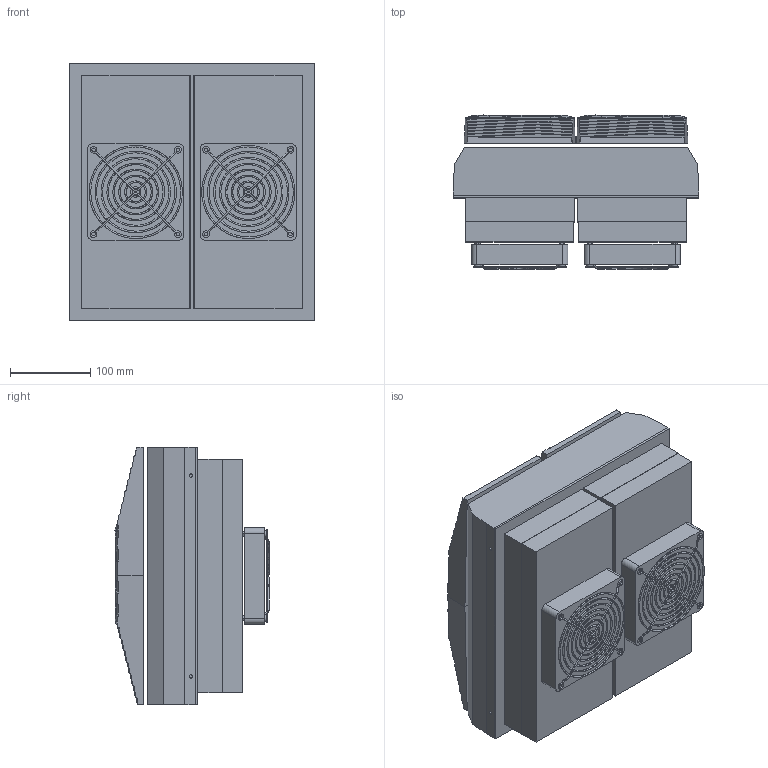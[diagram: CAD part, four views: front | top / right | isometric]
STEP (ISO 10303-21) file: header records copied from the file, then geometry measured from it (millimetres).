
FILE_DESCRIPTION(/* description */ (''),/* implementation_level */ '2;1');
FILE_NAME(/* name */ 'tcu',/* time_stamp */ '2023-11-13T12:30:36+01:00',/* author */ (''),/* organization */ (''),/* preprocessor_version */ 'ST-DEVELOPER v16.5',/* originating_system */ 'Rhino 7.34',/* authorisation */ '');
FILE_SCHEMA (('AUTOMOTIVE_DESIGN'));
Length unit declared in the file: millimetre
Products named in the file (1): Document
Bounding box: 306 x 191.61 x 320.47 mm (x, y, z)
Volume: 10867851.3 mm3; surface area: 1042566.6 mm2
Topology: 32 solids, 46 shells, 652 faces, 1716 edges, 1066 vertices
Faces by surface type: plane 442, cylinder 110, bspline 100
Entity records: 38764 total; most frequent: CARTESIAN_POINT 27369, ORIENTED_EDGE 3290, EDGE_CURVE 1716, B_SPLINE_CURVE_WITH_KNOTS 1454, VERTEX_POINT 1066, EDGE_LOOP 674, ADVANCED_FACE 650, FACE_OUTER_BOUND 650
